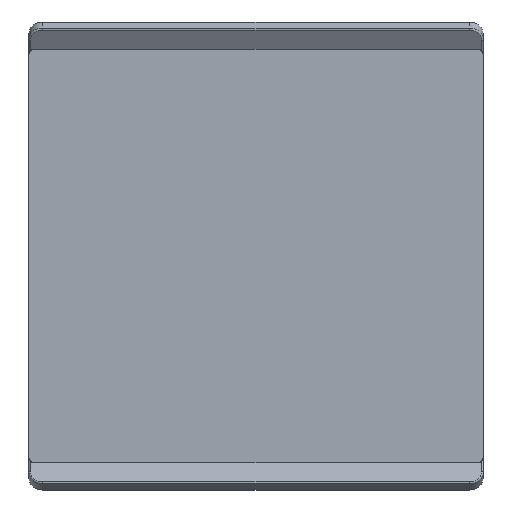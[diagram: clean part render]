
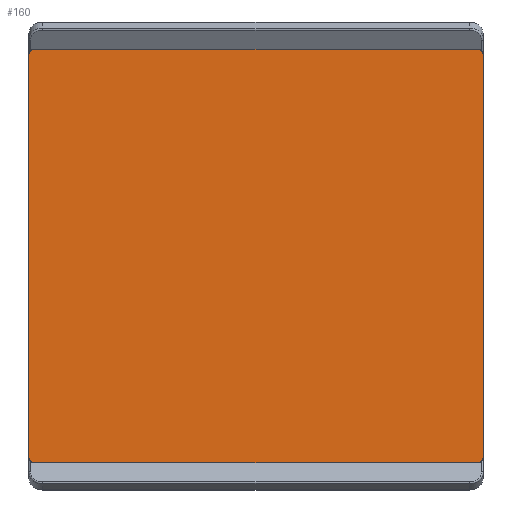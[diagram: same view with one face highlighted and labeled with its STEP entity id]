
A CAD part, front view. The second image highlights one B-rep face of the part: STEP entity #160.
In plain terms, the highlighted planar face has unit normal (0, -1, 0).
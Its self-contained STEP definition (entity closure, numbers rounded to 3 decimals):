
#1=CARTESIAN_POINT('',(49.,0.,-44.5));
#2=DIRECTION('',(0.,-1.,0.));
#3=DIRECTION('',(0.,0.,-1.));
#4=AXIS2_PLACEMENT_3D('',#1,#2,#3);
#6=DIRECTION('',(-1.,0.,0.));
#7=VECTOR('',#6,98.);
#8=CARTESIAN_POINT('',(49.,0.,-45.5));
#9=LINE('',#8,#7);
#10=CARTESIAN_POINT('',(-49.,0.,-44.5));
#11=DIRECTION('',(0.,-1.,0.));
#12=DIRECTION('',(-1.,0.,0.));
#13=AXIS2_PLACEMENT_3D('',#10,#11,#12);
#15=DIRECTION('',(0.,0.,1.));
#16=VECTOR('',#15,89.);
#17=CARTESIAN_POINT('',(-50.,0.,-44.5));
#18=LINE('',#17,#16);
#19=CARTESIAN_POINT('',(-49.,0.,44.5));
#20=DIRECTION('',(0.,-1.,0.));
#21=DIRECTION('',(0.,0.,1.));
#22=AXIS2_PLACEMENT_3D('',#19,#20,#21);
#24=DIRECTION('',(1.,0.,0.));
#25=VECTOR('',#24,98.);
#26=CARTESIAN_POINT('',(-49.,0.,45.5));
#27=LINE('',#26,#25);
#28=CARTESIAN_POINT('',(49.,0.,44.5));
#29=DIRECTION('',(0.,-1.,0.));
#30=DIRECTION('',(1.,0.,0.));
#31=AXIS2_PLACEMENT_3D('',#28,#29,#30);
#33=DIRECTION('',(0.,0.,-1.));
#34=VECTOR('',#33,89.);
#35=CARTESIAN_POINT('',(50.,0.,44.5));
#36=LINE('',#35,#34);
#105=CARTESIAN_POINT('',(49.,0.,-45.5));
#106=CARTESIAN_POINT('',(50.,0.,-44.5));
#107=VERTEX_POINT('',#105);
#108=VERTEX_POINT('',#106);
#113=CARTESIAN_POINT('',(-50.,0.,-44.5));
#114=CARTESIAN_POINT('',(-49.,0.,-45.5));
#115=VERTEX_POINT('',#113);
#116=VERTEX_POINT('',#114);
#121=CARTESIAN_POINT('',(50.,0.,44.5));
#122=CARTESIAN_POINT('',(49.,0.,45.5));
#123=VERTEX_POINT('',#121);
#124=VERTEX_POINT('',#122);
#129=CARTESIAN_POINT('',(-49.,0.,45.5));
#130=CARTESIAN_POINT('',(-50.,0.,44.5));
#131=VERTEX_POINT('',#129);
#132=VERTEX_POINT('',#130);
#137=CARTESIAN_POINT('',(0.,0.,0.));
#138=DIRECTION('',(0.,1.,0.));
#139=DIRECTION('',(1.,0.,0.));
#140=AXIS2_PLACEMENT_3D('',#137,#138,#139);
#141=PLANE('',#140);
#143=ORIENTED_EDGE('',*,*,#142,.F.);
#145=ORIENTED_EDGE('',*,*,#144,.T.);
#147=ORIENTED_EDGE('',*,*,#146,.F.);
#149=ORIENTED_EDGE('',*,*,#148,.T.);
#151=ORIENTED_EDGE('',*,*,#150,.F.);
#153=ORIENTED_EDGE('',*,*,#152,.T.);
#155=ORIENTED_EDGE('',*,*,#154,.F.);
#157=ORIENTED_EDGE('',*,*,#156,.T.);
#158=EDGE_LOOP('',(#143,#145,#147,#149,#151,#153,#155,#157));
#159=FACE_OUTER_BOUND('',#158,.F.);
#160=ADVANCED_FACE('',(#159),#141,.F.);
#5=CIRCLE('',#4,1.);
#14=CIRCLE('',#13,1.);
#23=CIRCLE('',#22,1.);
#32=CIRCLE('',#31,1.);
#142=EDGE_CURVE('',#107,#108,#5,.T.);
#144=EDGE_CURVE('',#107,#116,#9,.T.);
#146=EDGE_CURVE('',#115,#116,#14,.T.);
#148=EDGE_CURVE('',#115,#132,#18,.T.);
#150=EDGE_CURVE('',#131,#132,#23,.T.);
#152=EDGE_CURVE('',#131,#124,#27,.T.);
#154=EDGE_CURVE('',#123,#124,#32,.T.);
#156=EDGE_CURVE('',#123,#108,#36,.T.);
